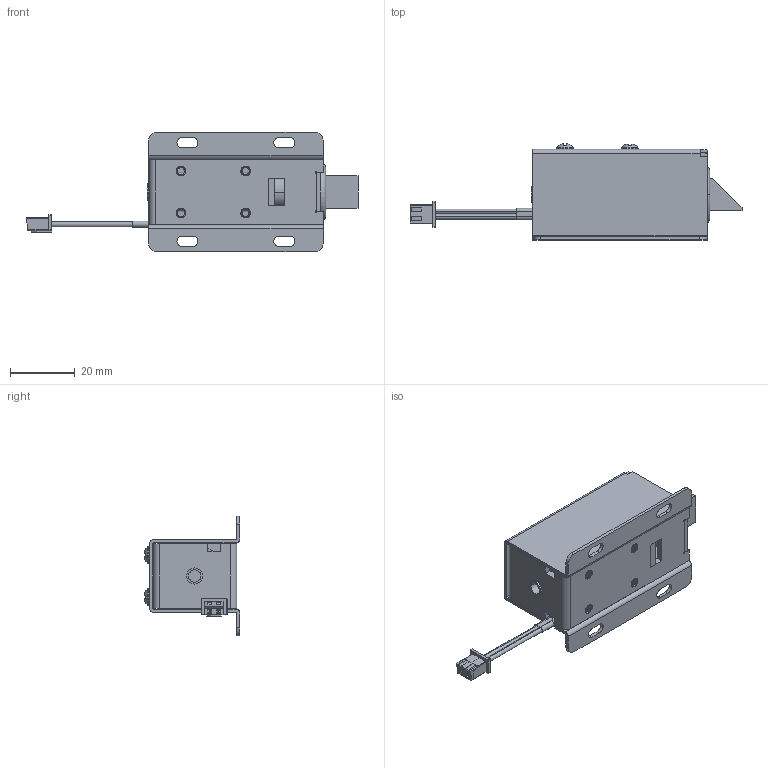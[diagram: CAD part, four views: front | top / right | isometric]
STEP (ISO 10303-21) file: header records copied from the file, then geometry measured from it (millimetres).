
FILE_DESCRIPTION((''),'2;1');
FILE_NAME('LY03E_ASM','2025-04-24T18:06:25',('PRIME'),(''),'CREO PARAMETRIC BY PTC INC, 2023073','CREO PARAMETRIC BY PTC INC, 2023073','');
FILE_SCHEMA(('CONFIG_CONTROL_DESIGN','SHAPE_APPEARANCE_LAYERS_GROUPS'));
Products named in the file (10): A-LY03B-00; C-LY03B-000; B-LY03B-00; D-LY03B-000; E-LY03B-00; F-LY03B-00; H-LY03B-00; M3-5MM; 0001; LY03E_ASM
Assembly tree (10 placements, depth 2):
  LY03E_ASM
    A-LY03B-00
    C-LY03B-000
    B-LY03B-00
    D-LY03B-000
    E-LY03B-00
    F-LY03B-00
    H-LY03B-00
    M3-5MM  x2
    0001
Bounding box: 102.8 x 29.7 x 37 mm (x, y, z)
Volume: 16572.5 mm3; surface area: 24798.4 mm2
Topology: 11 solids, 11 shells, 1464 faces, 3968 edges, 2608 vertices
Faces by surface type: plane 611, extrusion 539, cylinder 200, bspline 48, torus 44, cone 16, sphere 6
Entity records: 68149 total; most frequent: CARTESIAN_POINT 17605, ORIENTED_EDGE 7636, DIRECTION 5222, PRESENTATION_STYLE_ASSIGNMENT 4108, STYLED_ITEM 3976, EDGE_CURVE 3818, CURVE_STYLE 3119, VECTOR 2706
